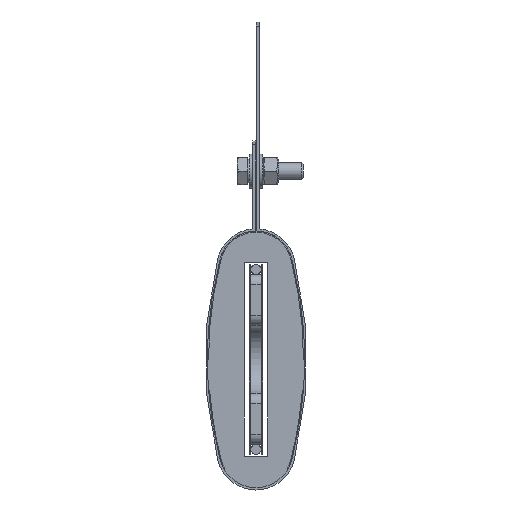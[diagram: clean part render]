
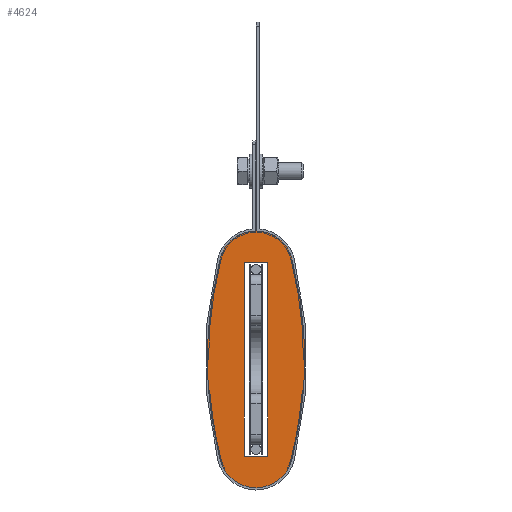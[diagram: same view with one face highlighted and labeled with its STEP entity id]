
A CAD part, front view. The second image highlights one B-rep face of the part: STEP entity #4624.
In plain terms, the highlighted planar face has unit normal (0, -1, 0).
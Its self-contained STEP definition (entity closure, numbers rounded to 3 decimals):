
#428=PLANE($,#5096);
#500=CIRCLE($,#4814,119.768);
#502=CIRCLE($,#4817,119.768);
#507=CIRCLE($,#4823,10.644);
#514=CIRCLE($,#4831,10.644);
#516=CIRCLE($,#4834,10.644);
#521=CIRCLE($,#4842,119.768);
#524=CIRCLE($,#4846,119.768);
#532=CIRCLE($,#4858,120.068);
#538=CIRCLE($,#4867,10.944);
#544=CIRCLE($,#4876,120.068);
#555=CIRCLE($,#4890,10.944);
#573=CIRCLE($,#4916,119.315);
#575=CIRCLE($,#4919,10.625);
#578=CIRCLE($,#4923,119.315);
#579=CIRCLE($,#4925,119.315);
#670=CIRCLE($,#5086,10.625);
#671=CIRCLE($,#5088,10.625);
#672=CIRCLE($,#5090,119.315);
#782=FACE_BOUND($,#1044,.T.);
#783=FACE_BOUND($,#1045,.T.);
#784=FACE_BOUND($,#1046,.T.);
#785=FACE_BOUND($,#1047,.T.);
#786=FACE_BOUND($,#1048,.T.);
#1044=EDGE_LOOP($,(#3765,#3766,#3767,#3768,#3769,#3770));
#1045=EDGE_LOOP($,(#3771,#3772,#3773,#3774));
#1046=EDGE_LOOP($,(#3775,#3776,#3777,#3778));
#1047=EDGE_LOOP($,(#3779,#3780,#3781,#3782));
#1048=EDGE_LOOP($,(#3783,#3784,#3785,#3786));
#1407=LINE($,#7529,#1725);
#1411=LINE($,#7537,#1729);
#1414=LINE($,#7543,#1732);
#1417=LINE($,#7548,#1735);
#1725=VECTOR($,#6255,57.);
#1729=VECTOR($,#6261,7.);
#1732=VECTOR($,#6266,57.);
#1735=VECTOR($,#6271,7.);
#1915=VERTEX_POINT($,#6975);
#1916=VERTEX_POINT($,#6977);
#1918=VERTEX_POINT($,#6982);
#1920=VERTEX_POINT($,#6986);
#1925=VERTEX_POINT($,#7000);
#1936=VERTEX_POINT($,#7023);
#1938=VERTEX_POINT($,#7027);
#1940=VERTEX_POINT($,#7033);
#1947=VERTEX_POINT($,#7052);
#1950=VERTEX_POINT($,#7060);
#1959=VERTEX_POINT($,#7085);
#1960=VERTEX_POINT($,#7087);
#1970=VERTEX_POINT($,#7111);
#1976=VERTEX_POINT($,#7129);
#2001=VERTEX_POINT($,#7207);
#2003=VERTEX_POINT($,#7213);
#2005=VERTEX_POINT($,#7222);
#2096=VERTEX_POINT($,#7519);
#2097=VERTEX_POINT($,#7527);
#2098=VERTEX_POINT($,#7528);
#2101=VERTEX_POINT($,#7536);
#2103=VERTEX_POINT($,#7542);
#2401=EDGE_CURVE($,#1916,#1915,#500,.T.);
#2406=EDGE_CURVE($,#1918,#1920,#502,.T.);
#2413=EDGE_CURVE($,#1925,#1916,#507,.T.);
#2427=EDGE_CURVE($,#1936,#1938,#514,.T.);
#2430=EDGE_CURVE($,#1920,#1940,#516,.T.);
#2439=EDGE_CURVE($,#1938,#1947,#521,.T.);
#2442=EDGE_CURVE($,#1950,#1925,#524,.T.);
#2455=EDGE_CURVE($,#1960,#1959,#532,.T.);
#2466=EDGE_CURVE($,#1970,#1960,#538,.T.);
#2475=EDGE_CURVE($,#1976,#1970,#544,.T.);
#2491=EDGE_CURVE($,#1959,#1976,#555,.T.);
#2517=EDGE_CURVE($,#1918,#2001,#573,.T.);
#2520=EDGE_CURVE($,#1936,#2003,#575,.T.);
#2524=EDGE_CURVE($,#2003,#1947,#578,.T.);
#2525=EDGE_CURVE($,#1950,#2005,#579,.T.);
#2661=EDGE_CURVE($,#2005,#2096,#670,.T.);
#2663=EDGE_CURVE($,#2001,#1940,#671,.T.);
#2664=EDGE_CURVE($,#2096,#1915,#672,.T.);
#2665=EDGE_CURVE($,#2097,#2098,#1407,.T.);
#2669=EDGE_CURVE($,#2098,#2101,#1411,.T.);
#2672=EDGE_CURVE($,#2101,#2103,#1414,.T.);
#2675=EDGE_CURVE($,#2103,#2097,#1417,.T.);
#3765=ORIENTED_EDGE($,*,*,#2664,.F.);
#3766=ORIENTED_EDGE($,*,*,#2661,.F.);
#3767=ORIENTED_EDGE($,*,*,#2525,.F.);
#3768=ORIENTED_EDGE($,*,*,#2442,.T.);
#3769=ORIENTED_EDGE($,*,*,#2413,.T.);
#3770=ORIENTED_EDGE($,*,*,#2401,.T.);
#3771=ORIENTED_EDGE($,*,*,#2406,.T.);
#3772=ORIENTED_EDGE($,*,*,#2430,.T.);
#3773=ORIENTED_EDGE($,*,*,#2663,.F.);
#3774=ORIENTED_EDGE($,*,*,#2517,.F.);
#3775=ORIENTED_EDGE($,*,*,#2466,.T.);
#3776=ORIENTED_EDGE($,*,*,#2455,.T.);
#3777=ORIENTED_EDGE($,*,*,#2491,.T.);
#3778=ORIENTED_EDGE($,*,*,#2475,.T.);
#3779=ORIENTED_EDGE($,*,*,#2427,.T.);
#3780=ORIENTED_EDGE($,*,*,#2439,.T.);
#3781=ORIENTED_EDGE($,*,*,#2524,.F.);
#3782=ORIENTED_EDGE($,*,*,#2520,.F.);
#3783=ORIENTED_EDGE($,*,*,#2665,.T.);
#3784=ORIENTED_EDGE($,*,*,#2669,.T.);
#3785=ORIENTED_EDGE($,*,*,#2672,.T.);
#3786=ORIENTED_EDGE($,*,*,#2675,.T.);
#4624=ADVANCED_FACE($,(#782,#783,#784,#785,#786),#428,.F.);
#4814=AXIS2_PLACEMENT_3D($,#6978,#5608,#5609);
#4817=AXIS2_PLACEMENT_3D($,#6988,#5617,#5618);
#4823=AXIS2_PLACEMENT_3D($,#7001,#5631,#5632);
#4831=AXIS2_PLACEMENT_3D($,#7029,#5654,#5655);
#4834=AXIS2_PLACEMENT_3D($,#7035,#5661,#5662);
#4842=AXIS2_PLACEMENT_3D($,#7055,#5681,#5682);
#4846=AXIS2_PLACEMENT_3D($,#7061,#5689,#5690);
#4858=AXIS2_PLACEMENT_3D($,#7088,#5718,#5719);
#4867=AXIS2_PLACEMENT_3D($,#7112,#5741,#5742);
#4876=AXIS2_PLACEMENT_3D($,#7130,#5762,#5763);
#4890=AXIS2_PLACEMENT_3D($,#7158,#5795,#5796);
#4916=AXIS2_PLACEMENT_3D($,#7208,#5855,#5856);
#4919=AXIS2_PLACEMENT_3D($,#7214,#5862,#5863);
#4923=AXIS2_PLACEMENT_3D($,#7220,#5871,#5872);
#4925=AXIS2_PLACEMENT_3D($,#7223,#5875,#5876);
#5086=AXIS2_PLACEMENT_3D($,#7520,#6242,#6243);
#5088=AXIS2_PLACEMENT_3D($,#7523,#6247,#6248);
#5090=AXIS2_PLACEMENT_3D($,#7525,#6251,#6252);
#5096=AXIS2_PLACEMENT_3D($,#7551,#6275,#6276);
#5608=DIRECTION('center_axis',(0.,1.,0.));
#5609=DIRECTION('ref_axis',(0.969,0.,0.246));
#5617=DIRECTION('center_axis',(0.,1.,0.));
#5618=DIRECTION('ref_axis',(0.969,0.,0.246));
#5631=DIRECTION('center_axis',(0.,1.,0.));
#5632=DIRECTION('ref_axis',(-0.969,0.,0.246));
#5654=DIRECTION('center_axis',(0.,1.,0.));
#5655=DIRECTION('ref_axis',(0.969,0.,-0.246));
#5661=DIRECTION('center_axis',(0.,1.,0.));
#5662=DIRECTION('ref_axis',(0.969,0.,-0.246));
#5681=DIRECTION('center_axis',(0.,1.,0.));
#5682=DIRECTION('ref_axis',(-0.969,0.,-0.246));
#5689=DIRECTION('center_axis',(0.,1.,0.));
#5690=DIRECTION('ref_axis',(-0.969,0.,-0.246));
#5718=DIRECTION('center_axis',(0.,-1.,0.));
#5719=DIRECTION('ref_axis',(0.969,0.,0.246));
#5741=DIRECTION('center_axis',(0.,-1.,0.));
#5742=DIRECTION('ref_axis',(0.969,0.,-0.246));
#5762=DIRECTION('center_axis',(0.,-1.,0.));
#5763=DIRECTION('ref_axis',(-0.969,0.,-0.246));
#5795=DIRECTION('center_axis',(0.,-1.,0.));
#5796=DIRECTION('ref_axis',(-0.969,0.,0.246));
#5855=DIRECTION('center_axis',(0.,1.,0.));
#5856=DIRECTION('ref_axis',(0.969,0.,-0.247));
#5862=DIRECTION('center_axis',(0.,1.,0.));
#5863=DIRECTION('ref_axis',(-0.969,0.,-0.247));
#5871=DIRECTION('center_axis',(0.,1.,0.));
#5872=DIRECTION('ref_axis',(-0.969,0.,0.247));
#5875=DIRECTION('center_axis',(0.,1.,0.));
#5876=DIRECTION('ref_axis',(-0.969,0.,0.247));
#6242=DIRECTION('center_axis',(0.,1.,0.));
#6243=DIRECTION('ref_axis',(0.969,0.,0.247));
#6247=DIRECTION('center_axis',(0.,1.,0.));
#6248=DIRECTION('ref_axis',(-0.969,0.,-0.247));
#6251=DIRECTION('center_axis',(0.,1.,0.));
#6252=DIRECTION('ref_axis',(0.969,0.,-0.247));
#6255=DIRECTION($,(0.,0.,1.));
#6261=DIRECTION($,(1.,0.,0.));
#6266=DIRECTION($,(0.,0.,-1.));
#6271=DIRECTION($,(-1.,0.,0.));
#6275=DIRECTION('center_axis',(0.,1.,0.));
#6276=DIRECTION('ref_axis',(0.,0.,1.));
#6975=CARTESIAN_POINT('',(-40.5,-72.5,-21.491));
#6977=CARTESIAN_POINT('',(-44.184,-72.5,7.994));
#6978=CARTESIAN_POINT('Origin',(-160.268,-72.5,-21.481));
#6982=CARTESIAN_POINT('',(-40.902,-72.5,-31.282));
#6986=CARTESIAN_POINT('',(-44.184,-72.5,-50.957));
#6988=CARTESIAN_POINT('Origin',(-160.268,-72.5,-21.481));
#7000=CARTESIAN_POINT('',(-64.816,-72.5,7.994));
#7001=CARTESIAN_POINT('Origin',(-54.5,-72.5,5.375));
#7023=CARTESIAN_POINT('',(-63.71,-72.5,-53.674));
#7027=CARTESIAN_POINT('',(-64.816,-72.5,-50.957));
#7029=CARTESIAN_POINT('Origin',(-54.5,-72.5,-48.338));
#7033=CARTESIAN_POINT('',(-45.29,-72.5,-53.674));
#7035=CARTESIAN_POINT('Origin',(-54.5,-72.5,-48.338));
#7052=CARTESIAN_POINT('',(-68.098,-72.5,-31.286));
#7055=CARTESIAN_POINT('Origin',(51.268,-72.5,-21.481));
#7060=CARTESIAN_POINT('',(-68.5,-72.5,-21.487));
#7061=CARTESIAN_POINT('Origin',(51.268,-72.5,-21.481));
#7085=CARTESIAN_POINT('',(-43.893,-72.5,8.068));
#7087=CARTESIAN_POINT('',(-43.893,-72.5,-51.031));
#7088=CARTESIAN_POINT('Origin',(-160.268,-72.5,-21.481));
#7111=CARTESIAN_POINT('',(-65.107,-72.5,-51.031));
#7112=CARTESIAN_POINT('Origin',(-54.5,-72.5,-48.338));
#7129=CARTESIAN_POINT('',(-65.107,-72.5,8.068));
#7130=CARTESIAN_POINT('Origin',(51.268,-72.5,-21.481));
#7158=CARTESIAN_POINT('Origin',(-54.5,-72.5,5.375));
#7207=CARTESIAN_POINT('',(-44.205,-72.5,-51.002));
#7208=CARTESIAN_POINT('Origin',(-159.815,-72.5,-21.5));
#7213=CARTESIAN_POINT('',(-64.795,-72.5,-51.002));
#7214=CARTESIAN_POINT('Origin',(-54.5,-72.5,-48.375));
#7220=CARTESIAN_POINT('Origin',(50.815,-72.5,-21.5));
#7222=CARTESIAN_POINT('',(-64.795,-72.5,8.002));
#7223=CARTESIAN_POINT('Origin',(50.815,-72.5,-21.5));
#7519=CARTESIAN_POINT('',(-44.205,-72.5,8.002));
#7520=CARTESIAN_POINT('Origin',(-54.5,-72.5,5.375));
#7523=CARTESIAN_POINT('Origin',(-54.5,-72.5,-48.375));
#7525=CARTESIAN_POINT('Origin',(-159.815,-72.5,-21.5));
#7527=CARTESIAN_POINT('',(-58.,-72.5,-50.));
#7528=CARTESIAN_POINT('',(-58.,-72.5,7.));
#7529=CARTESIAN_POINT($,(-58.,-72.5,-35.75));
#7536=CARTESIAN_POINT('',(-51.,-72.5,7.));
#7537=CARTESIAN_POINT($,(-56.25,-72.5,7.));
#7542=CARTESIAN_POINT('',(-51.,-72.5,-50.));
#7543=CARTESIAN_POINT($,(-51.,-72.5,-7.25));
#7548=CARTESIAN_POINT($,(-52.75,-72.5,-50.));
#7551=CARTESIAN_POINT('Origin',(-54.5,-72.5,-21.5));
